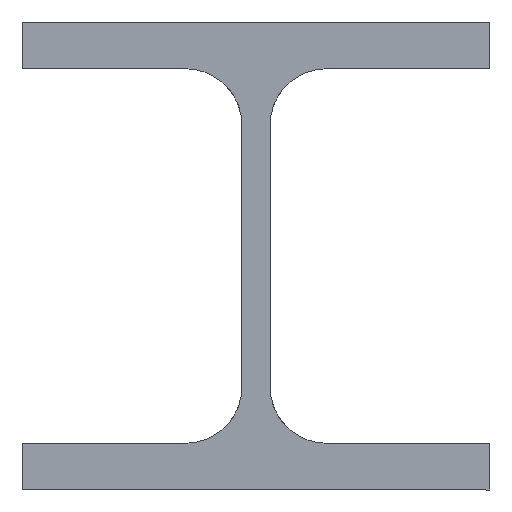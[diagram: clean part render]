
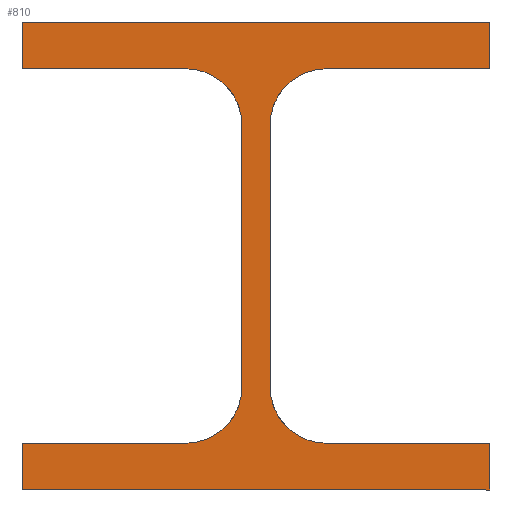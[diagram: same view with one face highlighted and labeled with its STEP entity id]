
A CAD part, left-side view. The second image highlights one B-rep face of the part: STEP entity #810.
In plain terms, the highlighted planar face has unit normal (-1, 0, 0).
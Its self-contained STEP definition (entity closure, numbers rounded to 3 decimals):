
#22 = DIRECTION ( 'NONE',  ( 1., 0., 0. ) ) ;
#53 = ORIENTED_EDGE ( 'NONE', *, *, #2580, .T. ) ;
#126 = EDGE_CURVE ( 'NONE', #3178, #1425, #476, .T. ) ;
#161 = CARTESIAN_POINT ( 'NONE',  ( 6945., 1903., 4158. ) ) ;
#165 = ORIENTED_EDGE ( 'NONE', *, *, #174, .T. ) ;
#174 = EDGE_CURVE ( 'NONE', #2190, #3084, #865, .T. ) ;
#178 = DIRECTION ( 'NONE',  ( 0., -1., 0. ) ) ;
#185 = PLANE ( 'NONE',  #2219 ) ;
#193 = VECTOR ( 'NONE', #1093, 1000. ) ;
#203 = VECTOR ( 'NONE', #3027, 1000. ) ;
#240 = ORIENTED_EDGE ( 'NONE', *, *, #2802, .T. ) ;
#267 = VECTOR ( 'NONE', #1407, 1000. ) ;
#276 = ORIENTED_EDGE ( 'NONE', *, *, #2852, .T. ) ;
#294 = CARTESIAN_POINT ( 'NONE',  ( 6945., 1885., 4158. ) ) ;
#329 = VECTOR ( 'NONE', #178, 1000. ) ;
#363 = EDGE_CURVE ( 'NONE', #3832, #1946, #1341, .T. ) ;
#379 = CIRCLE ( 'NONE', #2597, 12. ) ;
#433 = DIRECTION ( 'NONE',  ( 0., 0., 1. ) ) ;
#456 = VERTEX_POINT ( 'NONE', #2116 ) ;
#476 = LINE ( 'NONE', #3125, #1771 ) ;
#478 = CARTESIAN_POINT ( 'NONE',  ( 6945., 1950., 4090. ) ) ;
#509 = LINE ( 'NONE', #3184, #329 ) ;
#579 = VECTOR ( 'NONE', #2123, 1000. ) ;
#601 = CARTESIAN_POINT ( 'NONE',  ( 6945., 1903., 4158. ) ) ;
#685 = DIRECTION ( 'NONE',  ( 0., -1., 0. ) ) ;
#693 = EDGE_CURVE ( 'NONE', #2696, #456, #1073, .T. ) ;
#699 = VECTOR ( 'NONE', #2349, 1000. ) ;
#810 = ADVANCED_FACE ( 'NONE', ( #2684 ), #185, .T. ) ;
#865 = LINE ( 'NONE', #1695, #2156 ) ;
#881 = CIRCLE ( 'NONE', #1892, 12. ) ;
#908 = CARTESIAN_POINT ( 'NONE',  ( 6945., 1850., 4080. ) ) ;
#927 = ORIENTED_EDGE ( 'NONE', *, *, #1238, .T. ) ;
#942 = CARTESIAN_POINT ( 'NONE',  ( 6945., 1850., 4180. ) ) ;
#991 = ORIENTED_EDGE ( 'NONE', *, *, #126, .T. ) ;
#1009 = VECTOR ( 'NONE', #2559, 1000. ) ;
#1033 = CARTESIAN_POINT ( 'NONE',  ( 6945., 1885., 4170. ) ) ;
#1038 = DIRECTION ( 'NONE',  ( 0., 0., -1. ) ) ;
#1064 = DIRECTION ( 'NONE',  ( 0., 0., 1. ) ) ;
#1067 = EDGE_LOOP ( 'NONE', ( #2162, #1088, #991, #1070, #240, #1370, #165, #927, #53, #276, #1727, #2243, #2887, #1822, #3008, #3388 ) ) ;
#1070 = ORIENTED_EDGE ( 'NONE', *, *, #2439, .T. ) ;
#1073 = LINE ( 'NONE', #1375, #1009 ) ;
#1081 = AXIS2_PLACEMENT_3D ( 'NONE', #1809, #22, #2427 ) ;
#1088 = ORIENTED_EDGE ( 'NONE', *, *, #3651, .T. ) ;
#1093 = DIRECTION ( 'NONE',  ( 0., 1., 0. ) ) ;
#1113 = CARTESIAN_POINT ( 'NONE',  ( 6945., 1850., 4090. ) ) ;
#1221 = CARTESIAN_POINT ( 'NONE',  ( 6945., 1915., 4170. ) ) ;
#1238 = EDGE_CURVE ( 'NONE', #3084, #3905, #379, .T. ) ;
#1341 = LINE ( 'NONE', #161, #2470 ) ;
#1368 = CARTESIAN_POINT ( 'NONE',  ( 6945., 2850., 4175. ) ) ;
#1370 = ORIENTED_EDGE ( 'NONE', *, *, #3866, .T. ) ;
#1375 = CARTESIAN_POINT ( 'NONE',  ( 6945., 1950., 4180. ) ) ;
#1407 = DIRECTION ( 'NONE',  ( 0., 0., -1. ) ) ;
#1425 = VERTEX_POINT ( 'NONE', #2281 ) ;
#1526 = VECTOR ( 'NONE', #1657, 1000. ) ;
#1547 = VERTEX_POINT ( 'NONE', #3630 ) ;
#1551 = DIRECTION ( 'NONE',  ( 1., 0., 0. ) ) ;
#1569 = DIRECTION ( 'NONE',  ( 0., 0., 1. ) ) ;
#1657 = DIRECTION ( 'NONE',  ( 0., -1., 0. ) ) ;
#1695 = CARTESIAN_POINT ( 'NONE',  ( 6945., 1897., 4102. ) ) ;
#1727 = ORIENTED_EDGE ( 'NONE', *, *, #3072, .T. ) ;
#1771 = VECTOR ( 'NONE', #685, 1000. ) ;
#1809 = CARTESIAN_POINT ( 'NONE',  ( 6945., 1885., 4102. ) ) ;
#1822 = ORIENTED_EDGE ( 'NONE', *, *, #1856, .T. ) ;
#1856 = EDGE_CURVE ( 'NONE', #1997, #3832, #881, .T. ) ;
#1892 = AXIS2_PLACEMENT_3D ( 'NONE', #2194, #3766, #433 ) ;
#1935 = EDGE_CURVE ( 'NONE', #3685, #2079, #3869, .T. ) ;
#1940 = VERTEX_POINT ( 'NONE', #1113 ) ;
#1946 = VERTEX_POINT ( 'NONE', #1988 ) ;
#1953 = CARTESIAN_POINT ( 'NONE',  ( 6945., 1950., 4170. ) ) ;
#1988 = CARTESIAN_POINT ( 'NONE',  ( 6945., 1903., 4102. ) ) ;
#1997 = VERTEX_POINT ( 'NONE', #1221 ) ;
#2079 = VERTEX_POINT ( 'NONE', #3648 ) ;
#2116 = CARTESIAN_POINT ( 'NONE',  ( 6945., 1950., 4170. ) ) ;
#2123 = DIRECTION ( 'NONE',  ( 0., 0., 1. ) ) ;
#2156 = VECTOR ( 'NONE', #2652, 1000. ) ;
#2162 = ORIENTED_EDGE ( 'NONE', *, *, #1935, .T. ) ;
#2190 = VERTEX_POINT ( 'NONE', #3066 ) ;
#2194 = CARTESIAN_POINT ( 'NONE',  ( 6945., 1915., 4158. ) ) ;
#2219 = AXIS2_PLACEMENT_3D ( 'NONE', #1368, #2222, #1064 ) ;
#2222 = DIRECTION ( 'NONE',  ( -1., 0., 0. ) ) ;
#2243 = ORIENTED_EDGE ( 'NONE', *, *, #693, .T. ) ;
#2274 = VECTOR ( 'NONE', #3011, 1000. ) ;
#2281 = CARTESIAN_POINT ( 'NONE',  ( 6945., 1850., 4080. ) ) ;
#2349 = DIRECTION ( 'NONE',  ( 0., 1., 0. ) ) ;
#2374 = LINE ( 'NONE', #478, #267 ) ;
#2406 = DIRECTION ( 'NONE',  ( 1., 0., 0. ) ) ;
#2427 = DIRECTION ( 'NONE',  ( 0., 0., 1. ) ) ;
#2439 = EDGE_CURVE ( 'NONE', #1425, #1940, #2709, .T. ) ;
#2470 = VECTOR ( 'NONE', #1038, 1000. ) ;
#2491 = EDGE_CURVE ( 'NONE', #456, #1997, #2821, .T. ) ;
#2535 = AXIS2_PLACEMENT_3D ( 'NONE', #2718, #1551, #1569 ) ;
#2559 = DIRECTION ( 'NONE',  ( 0., 0., -1. ) ) ;
#2580 = EDGE_CURVE ( 'NONE', #3905, #1547, #509, .T. ) ;
#2597 = AXIS2_PLACEMENT_3D ( 'NONE', #294, #2406, #3352 ) ;
#2601 = VERTEX_POINT ( 'NONE', #3848 ) ;
#2604 = CARTESIAN_POINT ( 'NONE',  ( 6945., 1915., 4090. ) ) ;
#2652 = DIRECTION ( 'NONE',  ( 0., 0., 1. ) ) ;
#2684 = FACE_OUTER_BOUND ( 'NONE', #1067, .T. ) ;
#2696 = VERTEX_POINT ( 'NONE', #3261 ) ;
#2709 = LINE ( 'NONE', #908, #203 ) ;
#2718 = CARTESIAN_POINT ( 'NONE',  ( 6945., 1915., 4102. ) ) ;
#2789 = VERTEX_POINT ( 'NONE', #942 ) ;
#2791 = CIRCLE ( 'NONE', #1081, 12. ) ;
#2802 = EDGE_CURVE ( 'NONE', #1940, #2601, #2992, .T. ) ;
#2821 = LINE ( 'NONE', #1953, #1526 ) ;
#2852 = EDGE_CURVE ( 'NONE', #1547, #2789, #3897, .T. ) ;
#2887 = ORIENTED_EDGE ( 'NONE', *, *, #2491, .T. ) ;
#2900 = CARTESIAN_POINT ( 'NONE',  ( 6945., 1850., 4180. ) ) ;
#2992 = LINE ( 'NONE', #3286, #2274 ) ;
#3008 = ORIENTED_EDGE ( 'NONE', *, *, #363, .T. ) ;
#3011 = DIRECTION ( 'NONE',  ( 0., 1., 0. ) ) ;
#3027 = DIRECTION ( 'NONE',  ( 0., 0., 1. ) ) ;
#3066 = CARTESIAN_POINT ( 'NONE',  ( 6945., 1897., 4102. ) ) ;
#3072 = EDGE_CURVE ( 'NONE', #2789, #2696, #3243, .T. ) ;
#3084 = VERTEX_POINT ( 'NONE', #3202 ) ;
#3125 = CARTESIAN_POINT ( 'NONE',  ( 6945., 1950., 4080. ) ) ;
#3178 = VERTEX_POINT ( 'NONE', #3704 ) ;
#3184 = CARTESIAN_POINT ( 'NONE',  ( 6945., 1885., 4170. ) ) ;
#3202 = CARTESIAN_POINT ( 'NONE',  ( 6945., 1897., 4158. ) ) ;
#3243 = LINE ( 'NONE', #2900, #699 ) ;
#3261 = CARTESIAN_POINT ( 'NONE',  ( 6945., 1950., 4180. ) ) ;
#3286 = CARTESIAN_POINT ( 'NONE',  ( 6945., 1850., 4090. ) ) ;
#3301 = CARTESIAN_POINT ( 'NONE',  ( 6945., 1850., 4170. ) ) ;
#3352 = DIRECTION ( 'NONE',  ( 0., 0., 1. ) ) ;
#3388 = ORIENTED_EDGE ( 'NONE', *, *, #3460, .T. ) ;
#3460 = EDGE_CURVE ( 'NONE', #1946, #3685, #3865, .T. ) ;
#3603 = CARTESIAN_POINT ( 'NONE',  ( 6945., 1915., 4090. ) ) ;
#3630 = CARTESIAN_POINT ( 'NONE',  ( 6945., 1850., 4170. ) ) ;
#3648 = CARTESIAN_POINT ( 'NONE',  ( 6945., 1950., 4090. ) ) ;
#3651 = EDGE_CURVE ( 'NONE', #2079, #3178, #2374, .T. ) ;
#3685 = VERTEX_POINT ( 'NONE', #3603 ) ;
#3704 = CARTESIAN_POINT ( 'NONE',  ( 6945., 1950., 4080. ) ) ;
#3766 = DIRECTION ( 'NONE',  ( 1., 0., 0. ) ) ;
#3832 = VERTEX_POINT ( 'NONE', #601 ) ;
#3848 = CARTESIAN_POINT ( 'NONE',  ( 6945., 1885., 4090. ) ) ;
#3865 = CIRCLE ( 'NONE', #2535, 12. ) ;
#3866 = EDGE_CURVE ( 'NONE', #2601, #2190, #2791, .T. ) ;
#3869 = LINE ( 'NONE', #2604, #193 ) ;
#3897 = LINE ( 'NONE', #3301, #579 ) ;
#3905 = VERTEX_POINT ( 'NONE', #1033 ) ;
